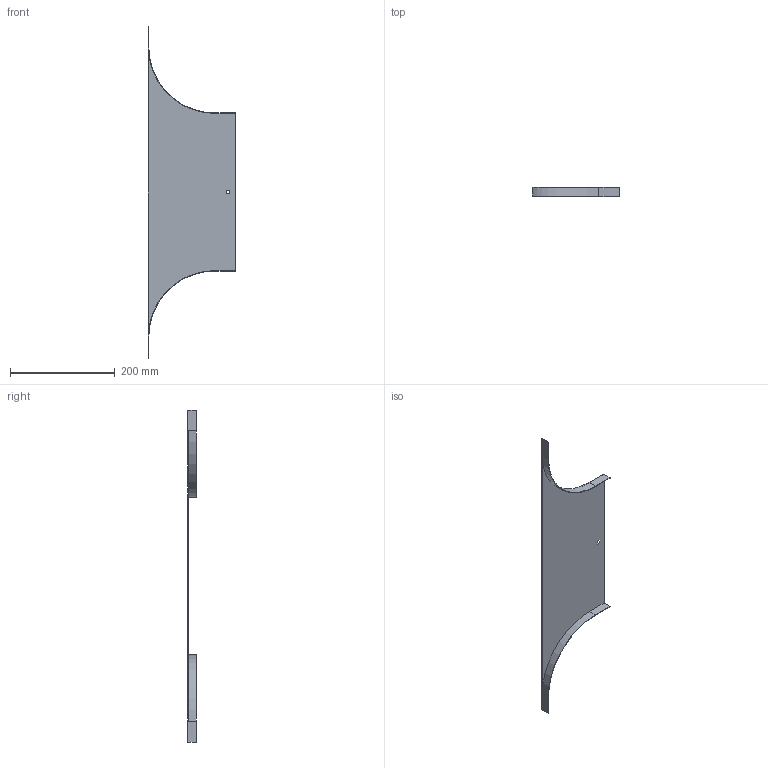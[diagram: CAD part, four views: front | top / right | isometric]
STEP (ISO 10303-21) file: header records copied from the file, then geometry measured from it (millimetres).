
FILE_DESCRIPTION (( 'STEP AP214' ), '1' );
FILE_NAME ('ORL_300.step', '2025-07-16T09:15:55', ( '' ), ( '' ), 'SwSTEP 2.0', 'SolidWorks 2023', '' );
FILE_SCHEMA (( 'AUTOMOTIVE_DESIGN' ));
Length unit declared in the file: millimetre
Products named in the file (1): ORL_300
Bounding box: 167 x 17 x 634 mm (x, y, z)
Volume: 66456.6 mm3; surface area: 134497.1 mm2
Topology: 1 solids, 1 shells, 22 faces, 60 edges, 40 vertices
Faces by surface type: plane 18, cylinder 4
Entity records: 719 total; most frequent: CARTESIAN_POINT 123, ORIENTED_EDGE 120, DIRECTION 114, EDGE_CURVE 60, LINE 52, VECTOR 52, VERTEX_POINT 40, AXIS2_PLACEMENT_3D 31
